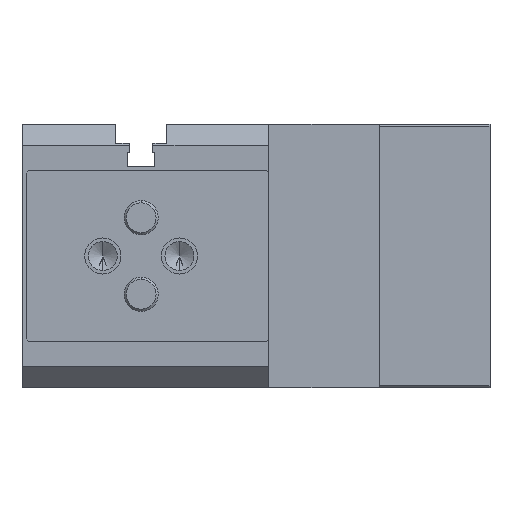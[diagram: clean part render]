
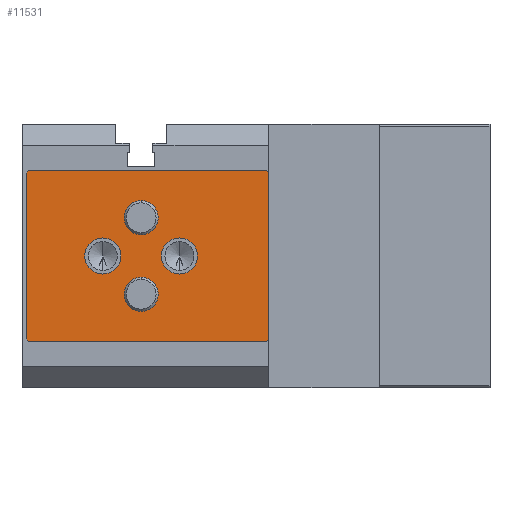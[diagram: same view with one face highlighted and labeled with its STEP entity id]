
A CAD part, left-side view. The second image highlights one B-rep face of the part: STEP entity #11531.
In plain terms, the highlighted planar face has unit normal (-1, 0, 0).
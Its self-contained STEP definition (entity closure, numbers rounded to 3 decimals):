
#44 = CIRCLE ( 'NONE', #35983, 4.25 ) ;
#306 = CARTESIAN_POINT ( 'NONE',  ( 0., 0., 9. ) ) ;
#603 = CARTESIAN_POINT ( 'NONE',  ( 0., 27., -19.5 ) ) ;
#1032 = ORIENTED_EDGE ( 'NONE', *, *, #28104, .T. ) ;
#1248 = DIRECTION ( 'NONE',  ( 0., 0., -1. ) ) ;
#2217 = EDGE_CURVE ( 'NONE', #29880, #3301, #42924, .T. ) ;
#2322 = VERTEX_POINT ( 'NONE', #15036 ) ;
#2690 = VECTOR ( 'NONE', #1248, 1000. ) ;
#2805 = DIRECTION ( 'NONE',  ( 0., 0., 1. ) ) ;
#2857 = EDGE_CURVE ( 'NONE', #34113, #16935, #44, .T. ) ;
#2937 = CARTESIAN_POINT ( 'NONE',  ( 0., -9., 4.25 ) ) ;
#3259 = CARTESIAN_POINT ( 'NONE',  ( 0., 0., 9. ) ) ;
#3301 = VERTEX_POINT ( 'NONE', #21293 ) ;
#4037 = DIRECTION ( 'NONE',  ( 0., 0.707, -0.707 ) ) ;
#4050 = DIRECTION ( 'NONE',  ( 0., 0., -1. ) ) ;
#4178 = EDGE_CURVE ( 'NONE', #16935, #34113, #31672, .T. ) ;
#4235 = ORIENTED_EDGE ( 'NONE', *, *, #34158, .T. ) ;
#4279 = AXIS2_PLACEMENT_3D ( 'NONE', #10931, #37153, #14668 ) ;
#4456 = DIRECTION ( 'NONE',  ( 0., 0., 1. ) ) ;
#4622 = VERTEX_POINT ( 'NONE', #23639 ) ;
#4886 = CIRCLE ( 'NONE', #23580, 4.25 ) ;
#5168 = DIRECTION ( 'NONE',  ( 1., 0., 0. ) ) ;
#5849 = AXIS2_PLACEMENT_3D ( 'NONE', #306, #26525, #4050 ) ;
#6298 = CARTESIAN_POINT ( 'NONE',  ( 0., 27., 19.5 ) ) ;
#6596 = CARTESIAN_POINT ( 'NONE',  ( 0., -30., -19.5 ) ) ;
#6704 = CARTESIAN_POINT ( 'NONE',  ( 0., 27., -19.5 ) ) ;
#6902 = CARTESIAN_POINT ( 'NONE',  ( 0., 9., 4.25 ) ) ;
#7019 = DIRECTION ( 'NONE',  ( 0., 0., -1. ) ) ;
#7358 = EDGE_CURVE ( 'NONE', #36498, #9578, #9211, .T. ) ;
#7799 = VECTOR ( 'NONE', #37877, 1000. ) ;
#7988 = CIRCLE ( 'NONE', #13132, 4.25 ) ;
#8222 = CARTESIAN_POINT ( 'NONE',  ( 0., 26.5, 20. ) ) ;
#8363 = EDGE_LOOP ( 'NONE', ( #16109, #1032, #4235, #11385, #12297, #21555, #12964, #38388 ) ) ;
#8551 = EDGE_CURVE ( 'NONE', #42709, #2322, #7988, .T. ) ;
#8809 = EDGE_CURVE ( 'NONE', #4622, #45523, #23180, .T. ) ;
#8961 = VECTOR ( 'NONE', #40826, 1000. ) ;
#8976 = LINE ( 'NONE', #34111, #7799 ) ;
#9024 = FACE_BOUND ( 'NONE', #41208, .T. ) ;
#9184 = ORIENTED_EDGE ( 'NONE', *, *, #7358, .T. ) ;
#9211 = CIRCLE ( 'NONE', #4279, 4. ) ;
#9578 = VERTEX_POINT ( 'NONE', #30066 ) ;
#10250 = DIRECTION ( 'NONE',  ( 0., 0.707, 0.707 ) ) ;
#10397 = DIRECTION ( 'NONE',  ( 0., 0., 1. ) ) ;
#10431 = VECTOR ( 'NONE', #10397, 1000. ) ;
#10931 = CARTESIAN_POINT ( 'NONE',  ( 0., 0., -9. ) ) ;
#11385 = ORIENTED_EDGE ( 'NONE', *, *, #12548, .T. ) ;
#11531 = ADVANCED_FACE ( 'NONE', ( #29004, #32538, #9024, #47770, #37788 ), #45638, .T. ) ;
#11611 = CARTESIAN_POINT ( 'NONE',  ( 0., 26.5, 20. ) ) ;
#11860 = EDGE_LOOP ( 'NONE', ( #9184, #46617 ) ) ;
#12285 = DIRECTION ( 'NONE',  ( 1., 0., 0. ) ) ;
#12297 = ORIENTED_EDGE ( 'NONE', *, *, #43162, .T. ) ;
#12439 = ORIENTED_EDGE ( 'NONE', *, *, #17754, .T. ) ;
#12548 = EDGE_CURVE ( 'NONE', #13414, #24722, #8976, .T. ) ;
#12652 = LINE ( 'NONE', #16158, #2690 ) ;
#12964 = ORIENTED_EDGE ( 'NONE', *, *, #39337, .T. ) ;
#13082 = DIRECTION ( 'NONE',  ( 0., 1., 0. ) ) ;
#13132 = AXIS2_PLACEMENT_3D ( 'NONE', #47742, #25261, #2805 ) ;
#13247 = VECTOR ( 'NONE', #10250, 1000. ) ;
#13285 = CIRCLE ( 'NONE', #30870, 4. ) ;
#13414 = VERTEX_POINT ( 'NONE', #42044 ) ;
#13904 = DIRECTION ( 'NONE',  ( 1., 0., 0. ) ) ;
#14421 = AXIS2_PLACEMENT_3D ( 'NONE', #15598, #26925, #4456 ) ;
#14507 = EDGE_CURVE ( 'NONE', #45523, #33383, #33052, .T. ) ;
#14668 = DIRECTION ( 'NONE',  ( 0., 0., -1. ) ) ;
#14717 = CARTESIAN_POINT ( 'NONE',  ( 0., -29.5, -20. ) ) ;
#15036 = CARTESIAN_POINT ( 'NONE',  ( 0., 9., -4.25 ) ) ;
#15146 = CARTESIAN_POINT ( 'NONE',  ( 0., -30., -19.5 ) ) ;
#15598 = CARTESIAN_POINT ( 'NONE',  ( 0., -1.5, -48. ) ) ;
#16109 = ORIENTED_EDGE ( 'NONE', *, *, #14507, .T. ) ;
#16158 = CARTESIAN_POINT ( 'NONE',  ( 0., 27., -19.5 ) ) ;
#16293 = ORIENTED_EDGE ( 'NONE', *, *, #2217, .T. ) ;
#16935 = VERTEX_POINT ( 'NONE', #26821 ) ;
#17754 = EDGE_CURVE ( 'NONE', #2322, #42709, #4886, .T. ) ;
#18307 = ORIENTED_EDGE ( 'NONE', *, *, #8551, .T. ) ;
#18907 = LINE ( 'NONE', #14717, #8961 ) ;
#20312 = LINE ( 'NONE', #6596, #10431 ) ;
#20496 = DIRECTION ( 'NONE',  ( 1., 0., 0. ) ) ;
#21187 = ORIENTED_EDGE ( 'NONE', *, *, #25664, .T. ) ;
#21293 = CARTESIAN_POINT ( 'NONE',  ( 0., 0., 5. ) ) ;
#21555 = ORIENTED_EDGE ( 'NONE', *, *, #26113, .T. ) ;
#21569 = LINE ( 'NONE', #6704, #30419 ) ;
#21735 = DIRECTION ( 'NONE',  ( 0., -0.707, -0.707 ) ) ;
#21831 = VECTOR ( 'NONE', #4037, 1000. ) ;
#22111 = CIRCLE ( 'NONE', #5849, 4. ) ;
#22919 = ORIENTED_EDGE ( 'NONE', *, *, #4178, .T. ) ;
#23180 = LINE ( 'NONE', #39322, #43221 ) ;
#23580 = AXIS2_PLACEMENT_3D ( 'NONE', #34741, #12285, #38501 ) ;
#23639 = CARTESIAN_POINT ( 'NONE',  ( 0., -29.5, 20. ) ) ;
#24722 = VERTEX_POINT ( 'NONE', #47968 ) ;
#25261 = DIRECTION ( 'NONE',  ( 1., 0., 0. ) ) ;
#25664 = EDGE_CURVE ( 'NONE', #3301, #29880, #22111, .T. ) ;
#26113 = EDGE_CURVE ( 'NONE', #39019, #36204, #20312, .T. ) ;
#26525 = DIRECTION ( 'NONE',  ( 1., 0., 0. ) ) ;
#26821 = CARTESIAN_POINT ( 'NONE',  ( 0., -9., -4.25 ) ) ;
#26925 = DIRECTION ( 'NONE',  ( -1., 0., 0. ) ) ;
#27645 = CARTESIAN_POINT ( 'NONE',  ( 0., 0., -9. ) ) ;
#27785 = VERTEX_POINT ( 'NONE', #603 ) ;
#28104 = EDGE_CURVE ( 'NONE', #33383, #27785, #12652, .T. ) ;
#28306 = ORIENTED_EDGE ( 'NONE', *, *, #2857, .T. ) ;
#29004 = FACE_BOUND ( 'NONE', #40479, .T. ) ;
#29369 = CARTESIAN_POINT ( 'NONE',  ( 0., -30., 19.5 ) ) ;
#29503 = DIRECTION ( 'NONE',  ( 1., 0., 0. ) ) ;
#29880 = VERTEX_POINT ( 'NONE', #39224 ) ;
#30066 = CARTESIAN_POINT ( 'NONE',  ( 0., 0., -5. ) ) ;
#30419 = VECTOR ( 'NONE', #21735, 1000. ) ;
#30870 = AXIS2_PLACEMENT_3D ( 'NONE', #27645, #5168, #31429 ) ;
#31429 = DIRECTION ( 'NONE',  ( 0., 0., -1. ) ) ;
#31672 = CIRCLE ( 'NONE', #34100, 4.25 ) ;
#32538 = FACE_OUTER_BOUND ( 'NONE', #8363, .T. ) ;
#33052 = LINE ( 'NONE', #11611, #21831 ) ;
#33383 = VERTEX_POINT ( 'NONE', #6298 ) ;
#34100 = AXIS2_PLACEMENT_3D ( 'NONE', #36385, #13904, #40171 ) ;
#34111 = CARTESIAN_POINT ( 'NONE',  ( 0., 26.5, -20. ) ) ;
#34113 = VERTEX_POINT ( 'NONE', #2937 ) ;
#34158 = EDGE_CURVE ( 'NONE', #27785, #13414, #21569, .T. ) ;
#34741 = CARTESIAN_POINT ( 'NONE',  ( 0., 9., 0. ) ) ;
#35983 = AXIS2_PLACEMENT_3D ( 'NONE', #43056, #20496, #46804 ) ;
#36204 = VERTEX_POINT ( 'NONE', #29369 ) ;
#36385 = CARTESIAN_POINT ( 'NONE',  ( 0., -9., 0. ) ) ;
#36468 = CARTESIAN_POINT ( 'NONE',  ( 0., -30., 19.5 ) ) ;
#36498 = VERTEX_POINT ( 'NONE', #39318 ) ;
#36797 = EDGE_CURVE ( 'NONE', #9578, #36498, #13285, .T. ) ;
#37153 = DIRECTION ( 'NONE',  ( 1., 0., 0. ) ) ;
#37788 = FACE_BOUND ( 'NONE', #11860, .T. ) ;
#37877 = DIRECTION ( 'NONE',  ( 0., -1., 0. ) ) ;
#38388 = ORIENTED_EDGE ( 'NONE', *, *, #8809, .T. ) ;
#38501 = DIRECTION ( 'NONE',  ( 0., 0., 1. ) ) ;
#39019 = VERTEX_POINT ( 'NONE', #15146 ) ;
#39224 = CARTESIAN_POINT ( 'NONE',  ( 0., 0., 13. ) ) ;
#39318 = CARTESIAN_POINT ( 'NONE',  ( 0., 0., -13. ) ) ;
#39322 = CARTESIAN_POINT ( 'NONE',  ( 0., 26.5, 20. ) ) ;
#39337 = EDGE_CURVE ( 'NONE', #36204, #4622, #43208, .T. ) ;
#40171 = DIRECTION ( 'NONE',  ( 0., 0., 1. ) ) ;
#40479 = EDGE_LOOP ( 'NONE', ( #21187, #16293 ) ) ;
#40826 = DIRECTION ( 'NONE',  ( 0., -0.707, 0.707 ) ) ;
#41208 = EDGE_LOOP ( 'NONE', ( #18307, #12439 ) ) ;
#42044 = CARTESIAN_POINT ( 'NONE',  ( 0., 26.5, -20. ) ) ;
#42709 = VERTEX_POINT ( 'NONE', #6902 ) ;
#42924 = CIRCLE ( 'NONE', #44471, 4. ) ;
#43056 = CARTESIAN_POINT ( 'NONE',  ( 0., -9., 0. ) ) ;
#43162 = EDGE_CURVE ( 'NONE', #24722, #39019, #18907, .T. ) ;
#43208 = LINE ( 'NONE', #36468, #13247 ) ;
#43221 = VECTOR ( 'NONE', #13082, 1000. ) ;
#44471 = AXIS2_PLACEMENT_3D ( 'NONE', #3259, #29503, #7019 ) ;
#45523 = VERTEX_POINT ( 'NONE', #8222 ) ;
#45638 = PLANE ( 'NONE',  #14421 ) ;
#46617 = ORIENTED_EDGE ( 'NONE', *, *, #36797, .T. ) ;
#46804 = DIRECTION ( 'NONE',  ( 0., 0., 1. ) ) ;
#47742 = CARTESIAN_POINT ( 'NONE',  ( 0., 9., 0. ) ) ;
#47770 = FACE_BOUND ( 'NONE', #48213, .T. ) ;
#47968 = CARTESIAN_POINT ( 'NONE',  ( 0., -29.5, -20. ) ) ;
#48213 = EDGE_LOOP ( 'NONE', ( #28306, #22919 ) ) ;
